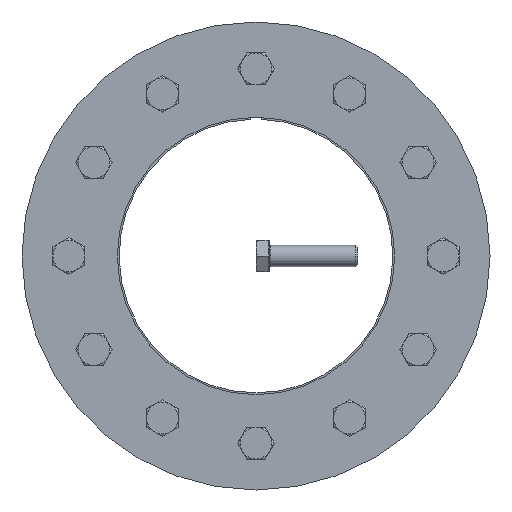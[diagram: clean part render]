
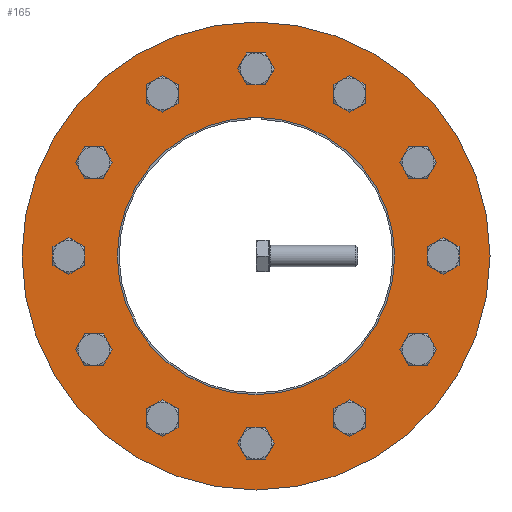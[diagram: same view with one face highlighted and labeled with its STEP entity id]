
A CAD part, front view. The second image highlights one B-rep face of the part: STEP entity #165.
In plain terms, the highlighted planar face has unit normal (0, -1, 0).
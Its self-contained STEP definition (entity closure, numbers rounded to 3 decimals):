
#165 = ADVANCED_FACE( '', ( #396, #397, #398, #399, #400, #401, #402, #403, #404, #405, #406, #407, #408, #409 ), #410, .F. );
#396 = FACE_BOUND( '', #657, .T. );
#397 = FACE_BOUND( '', #658, .T. );
#398 = FACE_BOUND( '', #659, .T. );
#399 = FACE_BOUND( '', #660, .T. );
#400 = FACE_BOUND( '', #661, .T. );
#401 = FACE_BOUND( '', #662, .T. );
#402 = FACE_BOUND( '', #663, .T. );
#403 = FACE_OUTER_BOUND( '', #664, .T. );
#404 = FACE_BOUND( '', #665, .T. );
#405 = FACE_BOUND( '', #666, .T. );
#406 = FACE_BOUND( '', #667, .T. );
#407 = FACE_BOUND( '', #668, .T. );
#408 = FACE_BOUND( '', #669, .T. );
#409 = FACE_BOUND( '', #670, .T. );
#410 = PLANE( '', #671 );
#657 = EDGE_LOOP( '', ( #1064 ) );
#658 = EDGE_LOOP( '', ( #1065 ) );
#659 = EDGE_LOOP( '', ( #1066 ) );
#660 = EDGE_LOOP( '', ( #1067 ) );
#661 = EDGE_LOOP( '', ( #1068 ) );
#662 = EDGE_LOOP( '', ( #1069 ) );
#663 = EDGE_LOOP( '', ( #1070 ) );
#664 = EDGE_LOOP( '', ( #1071 ) );
#665 = EDGE_LOOP( '', ( #1072 ) );
#666 = EDGE_LOOP( '', ( #1073 ) );
#667 = EDGE_LOOP( '', ( #1074 ) );
#668 = EDGE_LOOP( '', ( #1075 ) );
#669 = EDGE_LOOP( '', ( #1076 ) );
#670 = EDGE_LOOP( '', ( #1077 ) );
#671 = AXIS2_PLACEMENT_3D( '', #1078, #1079, #1080 );
#1064 = ORIENTED_EDGE( '', *, *, #1307, .T. );
#1065 = ORIENTED_EDGE( '', *, *, #1246, .T. );
#1066 = ORIENTED_EDGE( '', *, *, #1231, .T. );
#1067 = ORIENTED_EDGE( '', *, *, #1268, .T. );
#1068 = ORIENTED_EDGE( '', *, *, #1254, .T. );
#1069 = ORIENTED_EDGE( '', *, *, #1313, .T. );
#1070 = ORIENTED_EDGE( '', *, *, #1330, .F. );
#1071 = ORIENTED_EDGE( '', *, *, #1271, .T. );
#1072 = ORIENTED_EDGE( '', *, *, #1249, .T. );
#1073 = ORIENTED_EDGE( '', *, *, #1214, .T. );
#1074 = ORIENTED_EDGE( '', *, *, #1289, .T. );
#1075 = ORIENTED_EDGE( '', *, *, #1310, .T. );
#1076 = ORIENTED_EDGE( '', *, *, #1265, .T. );
#1077 = ORIENTED_EDGE( '', *, *, #1301, .T. );
#1078 = CARTESIAN_POINT( '', ( 0., -32.25, 132.5 ) );
#1079 = DIRECTION( '', ( 0., 1., 0. ) );
#1080 = DIRECTION( '', ( 0., 0., 1. ) );
#1214 = EDGE_CURVE( '', #1422, #1422, #1423, .T. );
#1231 = EDGE_CURVE( '', #1454, #1454, #1455, .T. );
#1246 = EDGE_CURVE( '', #1479, #1479, #1480, .T. );
#1249 = EDGE_CURVE( '', #1484, #1484, #1485, .T. );
#1254 = EDGE_CURVE( '', #1492, #1492, #1493, .T. );
#1265 = EDGE_CURVE( '', #1510, #1510, #1511, .T. );
#1268 = EDGE_CURVE( '', #1515, #1515, #1516, .T. );
#1271 = EDGE_CURVE( '', #1520, #1520, #1521, .T. );
#1289 = EDGE_CURVE( '', #1550, #1550, #1551, .T. );
#1301 = EDGE_CURVE( '', #1569, #1569, #1570, .T. );
#1307 = EDGE_CURVE( '', #1578, #1578, #1579, .T. );
#1310 = EDGE_CURVE( '', #1582, #1582, #1583, .T. );
#1313 = EDGE_CURVE( '', #1586, #1586, #1587, .T. );
#1330 = EDGE_CURVE( '', #1606, #1606, #1607, .T. );
#1422 = VERTEX_POINT( '', #1821 );
#1423 = CIRCLE( '', #1822, 6. );
#1454 = VERTEX_POINT( '', #1853 );
#1455 = CIRCLE( '', #1854, 6. );
#1479 = VERTEX_POINT( '', #1889 );
#1480 = CIRCLE( '', #1890, 6. );
#1484 = VERTEX_POINT( '', #1894 );
#1485 = CIRCLE( '', #1895, 6. );
#1492 = VERTEX_POINT( '', #1902 );
#1493 = CIRCLE( '', #1903, 6. );
#1510 = VERTEX_POINT( '', #1924 );
#1511 = CIRCLE( '', #1925, 6. );
#1515 = VERTEX_POINT( '', #1929 );
#1516 = CIRCLE( '', #1930, 6. );
#1520 = VERTEX_POINT( '', #1934 );
#1521 = CIRCLE( '', #1935, 132.5 );
#1550 = VERTEX_POINT( '', #1966 );
#1551 = CIRCLE( '', #1967, 6. );
#1569 = VERTEX_POINT( '', #1986 );
#1570 = CIRCLE( '', #1987, 6. );
#1578 = VERTEX_POINT( '', #1996 );
#1579 = CIRCLE( '', #1997, 6. );
#1582 = VERTEX_POINT( '', #2000 );
#1583 = CIRCLE( '', #2001, 6. );
#1586 = VERTEX_POINT( '', #2004 );
#1587 = CIRCLE( '', #2005, 6. );
#1606 = VERTEX_POINT( '', #2029 );
#1607 = CIRCLE( '', #2030, 78.5 );
#1821 = CARTESIAN_POINT( '', ( 106., -32.25, -6. ) );
#1822 = AXIS2_PLACEMENT_3D( '', #2115, #2116, #2117 );
#1853 = CARTESIAN_POINT( '', ( -6., -32.25, -106. ) );
#1854 = AXIS2_PLACEMENT_3D( '', #2160, #2161, #2162 );
#1889 = CARTESIAN_POINT( '', ( -94.799, -32.25, -47.804 ) );
#1890 = AXIS2_PLACEMENT_3D( '', #2177, #2178, #2179 );
#1894 = CARTESIAN_POINT( '', ( 58.196, -32.25, 88.799 ) );
#1895 = AXIS2_PLACEMENT_3D( '', #2183, #2184, #2185 );
#1902 = CARTESIAN_POINT( '', ( 94.799, -32.25, 47.804 ) );
#1903 = AXIS2_PLACEMENT_3D( '', #2192, #2193, #2194 );
#1924 = CARTESIAN_POINT( '', ( -106., -32.25, 6. ) );
#1925 = AXIS2_PLACEMENT_3D( '', #2208, #2209, #2210 );
#1929 = CARTESIAN_POINT( '', ( 88.799, -32.25, -58.196 ) );
#1930 = AXIS2_PLACEMENT_3D( '', #2214, #2215, #2216 );
#1934 = CARTESIAN_POINT( '', ( 0., -32.25, -132.5 ) );
#1935 = AXIS2_PLACEMENT_3D( '', #2220, #2221, #2222 );
#1966 = CARTESIAN_POINT( '', ( 47.804, -32.25, -94.799 ) );
#1967 = AXIS2_PLACEMENT_3D( '', #2255, #2256, #2257 );
#1986 = CARTESIAN_POINT( '', ( -47.804, -32.25, 94.799 ) );
#1987 = AXIS2_PLACEMENT_3D( '', #2277, #2278, #2279 );
#1996 = CARTESIAN_POINT( '', ( -88.799, -32.25, 58.196 ) );
#1997 = AXIS2_PLACEMENT_3D( '', #2287, #2288, #2289 );
#2000 = CARTESIAN_POINT( '', ( -58.196, -32.25, -88.799 ) );
#2001 = AXIS2_PLACEMENT_3D( '', #2290, #2291, #2292 );
#2004 = CARTESIAN_POINT( '', ( 6., -32.25, 106. ) );
#2005 = AXIS2_PLACEMENT_3D( '', #2293, #2294, #2295 );
#2029 = CARTESIAN_POINT( '', ( 0., -32.25, -78.5 ) );
#2030 = AXIS2_PLACEMENT_3D( '', #2313, #2314, #2315 );
#2115 = CARTESIAN_POINT( '', ( 106., -32.25, 0. ) );
#2116 = DIRECTION( '', ( 0., 1., 0. ) );
#2117 = DIRECTION( '', ( 0., 0., -1. ) );
#2160 = CARTESIAN_POINT( '', ( 0., -32.25, -106. ) );
#2161 = DIRECTION( '', ( 0., 1., 0. ) );
#2162 = DIRECTION( '', ( -1., 0., 0. ) );
#2177 = CARTESIAN_POINT( '', ( -91.799, -32.25, -53. ) );
#2178 = DIRECTION( '', ( 0., 1., 0. ) );
#2179 = DIRECTION( '', ( -0.5, 0., 0.866 ) );
#2183 = CARTESIAN_POINT( '', ( 53., -32.25, 91.799 ) );
#2184 = DIRECTION( '', ( 0., 1., 0. ) );
#2185 = DIRECTION( '', ( 0.866, 0., -0.5 ) );
#2192 = CARTESIAN_POINT( '', ( 91.799, -32.25, 53. ) );
#2193 = DIRECTION( '', ( 0., 1., 0. ) );
#2194 = DIRECTION( '', ( 0.5, 0., -0.866 ) );
#2208 = CARTESIAN_POINT( '', ( -106., -32.25, 0. ) );
#2209 = DIRECTION( '', ( 0., 1., 0. ) );
#2210 = DIRECTION( '', ( 0., 0., 1. ) );
#2214 = CARTESIAN_POINT( '', ( 91.799, -32.25, -53. ) );
#2215 = DIRECTION( '', ( 0., 1., 0. ) );
#2216 = DIRECTION( '', ( -0.5, 0., -0.866 ) );
#2220 = CARTESIAN_POINT( '', ( 0., -32.25, 0. ) );
#2221 = DIRECTION( '', ( 0., -1., 0. ) );
#2222 = DIRECTION( '', ( 0., 0., -1. ) );
#2255 = CARTESIAN_POINT( '', ( 53., -32.25, -91.799 ) );
#2256 = DIRECTION( '', ( 0., 1., 0. ) );
#2257 = DIRECTION( '', ( -0.866, 0., -0.5 ) );
#2277 = CARTESIAN_POINT( '', ( -53., -32.25, 91.799 ) );
#2278 = DIRECTION( '', ( 0., 1., 0. ) );
#2279 = DIRECTION( '', ( 0.866, 0., 0.5 ) );
#2287 = CARTESIAN_POINT( '', ( -91.799, -32.25, 53. ) );
#2288 = DIRECTION( '', ( 0., 1., 0. ) );
#2289 = DIRECTION( '', ( 0.5, 0., 0.866 ) );
#2290 = CARTESIAN_POINT( '', ( -53., -32.25, -91.799 ) );
#2291 = DIRECTION( '', ( 0., 1., 0. ) );
#2292 = DIRECTION( '', ( -0.866, 0., 0.5 ) );
#2293 = CARTESIAN_POINT( '', ( 0., -32.25, 106. ) );
#2294 = DIRECTION( '', ( 0., 1., 0. ) );
#2295 = DIRECTION( '', ( 1., 0., 0. ) );
#2313 = CARTESIAN_POINT( '', ( 0., -32.25, 0. ) );
#2314 = DIRECTION( '', ( 0., -1., 0. ) );
#2315 = DIRECTION( '', ( 0., 0., -1. ) );
